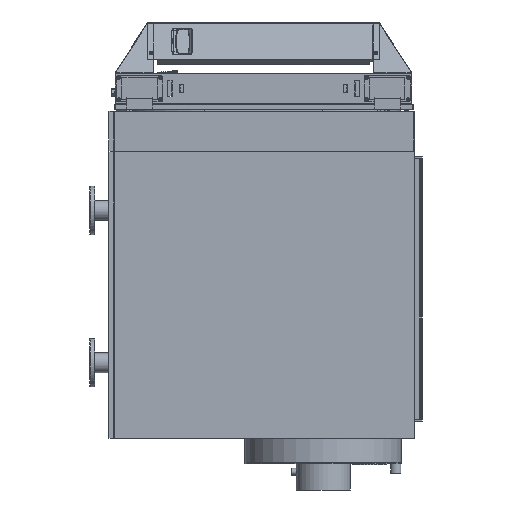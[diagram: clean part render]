
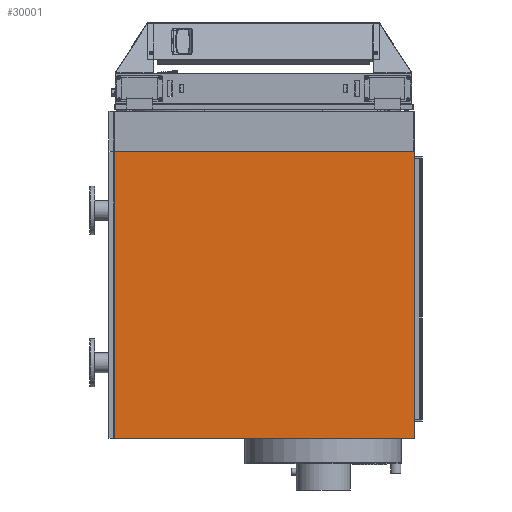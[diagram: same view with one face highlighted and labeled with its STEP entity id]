
A CAD part, left-side view. The second image highlights one B-rep face of the part: STEP entity #30001.
In plain terms, the highlighted planar face has unit normal (-1, 0, 0).
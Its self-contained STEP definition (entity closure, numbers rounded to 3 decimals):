
#494 = EDGE_CURVE ( 'NONE', #16815, #20524, #21301, .T. ) ;
#1492 = CARTESIAN_POINT ( 'NONE',  ( -366.705, 599.482, -1075.35 ) ) ;
#1866 = LINE ( 'NONE', #50213, #27057 ) ;
#3419 = CARTESIAN_POINT ( 'NONE',  ( -366.705, 598.632, -1075.35 ) ) ;
#3545 = DIRECTION ( 'NONE',  ( 0., 0., -1. ) ) ;
#4838 = DIRECTION ( 'NONE',  ( 0., -1., 0. ) ) ;
#5645 = EDGE_CURVE ( 'NONE', #31587, #16815, #1866, .T. ) ;
#8316 = PLANE ( 'NONE',  #40355 ) ;
#9437 = ORIENTED_EDGE ( 'NONE', *, *, #5645, .T. ) ;
#9472 = ORIENTED_EDGE ( 'NONE', *, *, #494, .T. ) ;
#9942 = CARTESIAN_POINT ( 'NONE',  ( -366.705, -549.668, -1075.35 ) ) ;
#11395 = EDGE_CURVE ( 'NONE', #20524, #38131, #14556, .T. ) ;
#11624 = FACE_OUTER_BOUND ( 'NONE', #17348, .T. ) ;
#12007 = CARTESIAN_POINT ( 'NONE',  ( -366.705, -549.668, 22.95 ) ) ;
#12610 = ORIENTED_EDGE ( 'NONE', *, *, #43535, .T. ) ;
#14556 = LINE ( 'NONE', #30388, #24812 ) ;
#16482 = CARTESIAN_POINT ( 'NONE',  ( -366.705, 599.482, 23.8 ) ) ;
#16815 = VERTEX_POINT ( 'NONE', #12007 ) ;
#17348 = EDGE_LOOP ( 'NONE', ( #9437, #9472, #46153, #12610 ) ) ;
#17453 = DIRECTION ( 'NONE',  ( 0., 1., 0. ) ) ;
#20524 = VERTEX_POINT ( 'NONE', #33786 ) ;
#21301 = LINE ( 'NONE', #48703, #46406 ) ;
#23309 = DIRECTION ( 'NONE',  ( 0., 0., 1. ) ) ;
#24812 = VECTOR ( 'NONE', #3545, 1000. ) ;
#27057 = VECTOR ( 'NONE', #23309, 1000. ) ;
#30001 = ADVANCED_FACE ( 'NONE', ( #11624 ), #8316, .F. ) ;
#30388 = CARTESIAN_POINT ( 'NONE',  ( -366.705, 598.632, 5773.8 ) ) ;
#31587 = VERTEX_POINT ( 'NONE', #9942 ) ;
#32144 = VECTOR ( 'NONE', #4838, 1000. ) ;
#33786 = CARTESIAN_POINT ( 'NONE',  ( -366.705, 598.632, 22.95 ) ) ;
#35422 = DIRECTION ( 'NONE',  ( 0., 0., -1. ) ) ;
#38131 = VERTEX_POINT ( 'NONE', #3419 ) ;
#40355 = AXIS2_PLACEMENT_3D ( 'NONE', #16482, #43622, #35422 ) ;
#43535 = EDGE_CURVE ( 'NONE', #38131, #31587, #50445, .T. ) ;
#43622 = DIRECTION ( 'NONE',  ( 1., 0., 0. ) ) ;
#46153 = ORIENTED_EDGE ( 'NONE', *, *, #11395, .T. ) ;
#46406 = VECTOR ( 'NONE', #17453, 1000. ) ;
#48703 = CARTESIAN_POINT ( 'NONE',  ( -366.705, -550.518, 22.95 ) ) ;
#50213 = CARTESIAN_POINT ( 'NONE',  ( -366.705, -549.668, -1076.2 ) ) ;
#50445 = LINE ( 'NONE', #1492, #32144 ) ;
